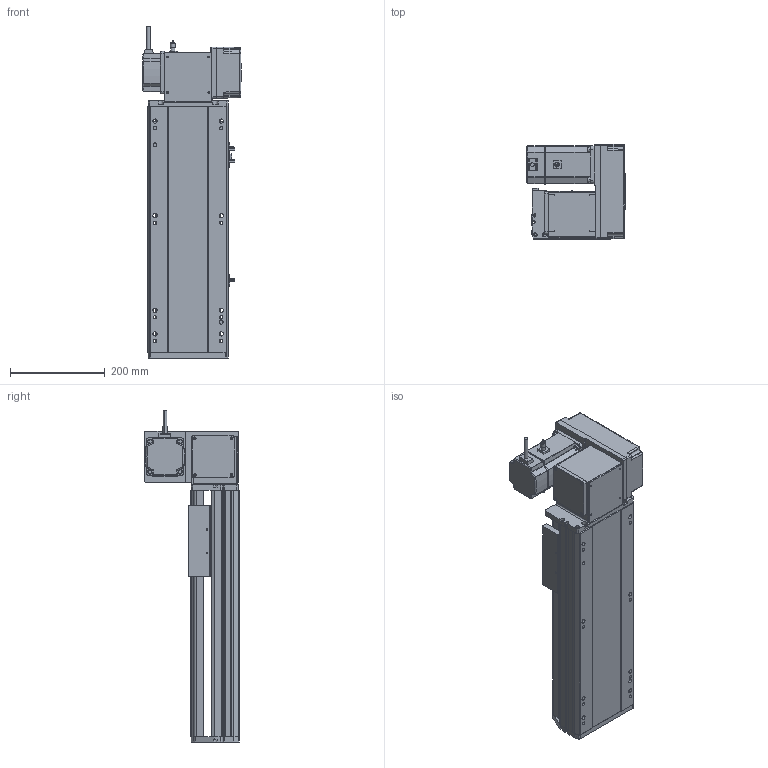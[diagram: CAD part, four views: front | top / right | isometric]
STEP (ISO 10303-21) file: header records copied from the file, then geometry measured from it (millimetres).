
FILE_DESCRIPTION (( 'STEP AP214' ), '1' );
FILE_NAME ('RTB17S-XX-250-RW-M75-C4.STEP', '2025-12-12T02:31:19', ( '' ), ( '' ), 'SwSTEP 2.0', 'SolidWorks 2018', '' );
FILE_SCHEMA (( 'AUTOMOTIVE_DESIGN' ));
Length unit declared in the file: millimetre
Products named in the file (15): RTB17S-賑釱^RTB17S-XX-XX-RW-M75-C4; RTB17-R-011菁釱^RTB17S-XX-XX-RW-M75-C4; RTB22S-GY-017P^RTB17S-RW-々湍釱蚾饜-750W_RTB17S-XX-XX-RW-M75-C4; RTB22S-GY-018P^RTB17S-RW-々湍釱蚾饜-750W_RTB17S-XX-XX-RW-M75-C4; RTH13-BL-012覜茼え俋离^RTB17S-賑釱_RTB17S-XX-XX-RW-M75-C4; RMP17S-L-014-T20-P75--々湍釱^RTB17S-RW-々湍釱蚾饜-750W_RTB17S-XX-XX-RW-M75-C4; RTB17S-L-001-耜醱啣^RTB17S-XX-XX-RW-M75-C4; EE672^RTB17S-XX-XX-RW-M75-C4; 750W萇儂^RTB17S-XX-XX-RW-M75-C4; RTB17S-XX-250-RW-M75-C4; RTB17S-RW-々湍釱蚾饜-750W^RTB17S-XX-XX-RW-M75-C4; RTB22S-GY-005P^RTB17S-RW-々湍釱蚾饜-750W_RTB17S-XX-XX-RW-M75-C4; RTB22S-GY-008-M75--萇儂啣^RTB17S-RW-々湍釱蚾饜-750W_RTB17S-XX-XX-RW-M75-C4; RTB17S-L-004-賑釱^RTB17S-賑釱_RTB17S-XX-XX-RW-M75-C4; RTB17S-L-007奻裔^RTB17S-XX-XX-RW-M75-C4
Assembly tree (17 placements, depth 3):
  RTB17S-XX-250-RW-M75-C4
    RTB17-R-011菁釱^RTB17S-XX-XX-RW-M75-C4
    EE672^RTB17S-XX-XX-RW-M75-C4  x3
    RTB17S-L-001-耜醱啣^RTB17S-XX-XX-RW-M75-C4
    RTB17S-賑釱^RTB17S-XX-XX-RW-M75-C4
      RTB17S-L-004-賑釱^RTB17S-賑釱_RTB17S-XX-XX-RW-M75-C4
      RTH13-BL-012覜茼え俋离^RTB17S-賑釱_RTB17S-XX-XX-RW-M75-C4
    RTB17S-L-007奻裔^RTB17S-XX-XX-RW-M75-C4
    750W萇儂^RTB17S-XX-XX-RW-M75-C4
    RTB17S-RW-々湍釱蚾饜-750W^RTB17S-XX-XX-RW-M75-C4
      RMP17S-L-014-T20-P75--々湍釱^RTB17S-RW-々湍釱蚾饜-750W_RTB17S-XX-XX-RW-M75-C4
      RTB22S-GY-005P^RTB17S-RW-々湍釱蚾饜-750W_RTB17S-XX-XX-RW-M75-C4
      RTB22S-GY-017P^RTB17S-RW-々湍釱蚾饜-750W_RTB17S-XX-XX-RW-M75-C4  x2
      RTB22S-GY-008-M75--萇儂啣^RTB17S-RW-々湍釱蚾饜-750W_RTB17S-XX-XX-RW-M75-C4
      RTB22S-GY-018P^RTB17S-RW-々湍釱蚾饜-750W_RTB17S-XX-XX-RW-M75-C4
Bounding box: 207.4 x 201.5 x 702.2 mm (x, y, z)
Volume: 7507527.7 mm3; surface area: 1151470.8 mm2
Topology: 17 solids, 17 shells, 2041 faces, 5620 edges, 3626 vertices
Faces by surface type: plane 964, cylinder 661, bspline 294, cone 110, sphere 8, torus 4
Entity records: 55798 total; most frequent: CARTESIAN_POINT 16284, ORIENTED_EDGE 8084, DIRECTION 7592, EDGE_CURVE 4042, AXIS2_PLACEMENT_3D 2646, VERTEX_POINT 2630, VECTOR 2300, LINE 2300
